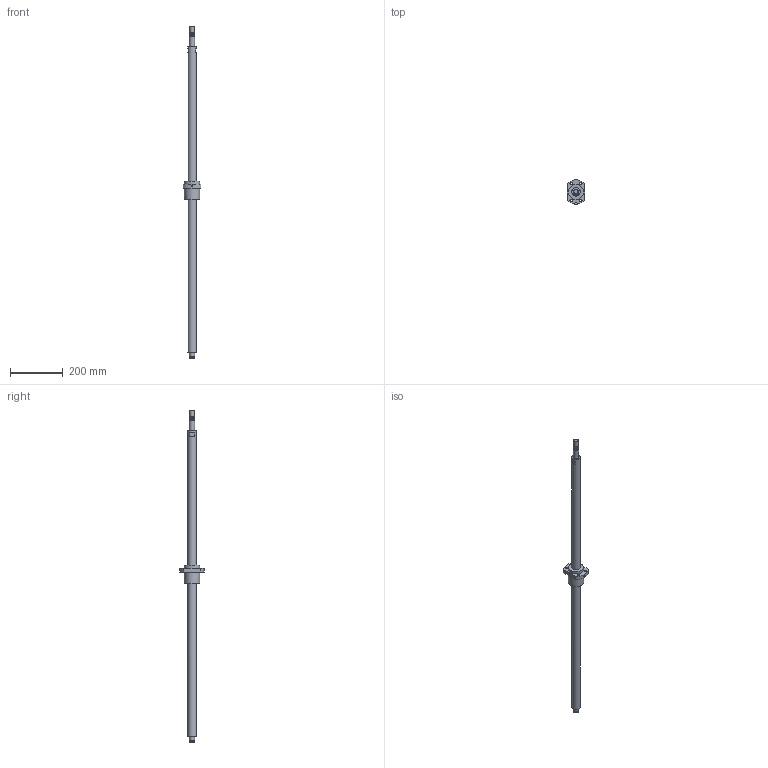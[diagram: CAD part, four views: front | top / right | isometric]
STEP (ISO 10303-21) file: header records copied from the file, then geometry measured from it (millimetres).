
FILE_DESCRIPTION(/* description */ (''),/* implementation_level */ '2;1');
FILE_NAME(/* name */ 'BSG467_asm1.stp',/* time_stamp */ '2017-01-14T09:26:32+08:00',/* author */ (''),/* organization */ (''),/* preprocessor_version */ 'ST-DEVELOPER v15',/* originating_system */ 'SIEMENS PLM Software NX 8.5',/* authorisation */ '');
FILE_SCHEMA (('AUTOMOTIVE_DESIGN { 1 0 10303 214 3 1 1 1 }'));
Length unit declared in the file: millimetre
Products named in the file (3): 01; BSG467; BSG467_asm1
Assembly tree (2 placements, depth 2):
  BSG467_asm1
    BSG467
    01
Bounding box: 68 x 92 x 1260 mm (x, y, z)
Volume: 1130320 mm3; surface area: 157956.1 mm2
Topology: 2 solids, 2 shells, 72 faces, 185 edges, 126 vertices
Faces by surface type: plane 41, cylinder 29, bspline 2
Full cylindrical faces by diameter (mm): 4.5 x4, 5 x1, 6 x1, 9 x4, 17 x1, 19 x1, 20 x8, 32 x2, 58 x2
Entity records: 3391 total; most frequent: CARTESIAN_POINT 1865, DIRECTION 310, ORIENTED_EDGE 260, EDGE_CURVE 130, AXIS2_PLACEMENT_3D 125, EDGE_LOOP 107, VERTEX_POINT 97, FACE_BOUND 71
